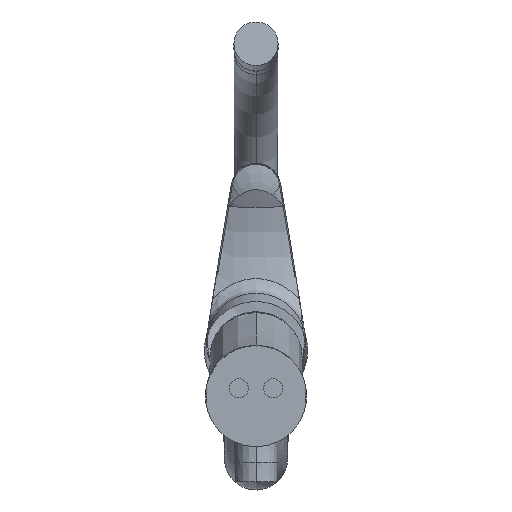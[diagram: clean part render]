
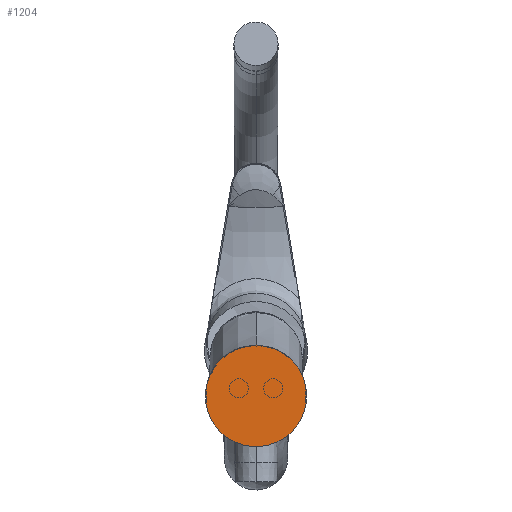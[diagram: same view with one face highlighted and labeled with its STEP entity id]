
A CAD part, front view. The second image highlights one B-rep face of the part: STEP entity #1204.
In plain terms, the highlighted planar face has unit normal (0, -1, 0).
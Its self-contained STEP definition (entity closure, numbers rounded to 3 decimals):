
#166=CARTESIAN_POINT('',(22.498,0.,10.003));
#167=CARTESIAN_POINT('',(22.121,0.,10.608));
#168=CARTESIAN_POINT('',(21.322,0.,11.784));
#169=CARTESIAN_POINT('',(19.983,0.,13.449));
#170=CARTESIAN_POINT('',(19.005,0.,14.481));
#171=CARTESIAN_POINT('',(18.494,0.,14.979));
#196=CARTESIAN_POINT('',(0.,0.,-4.));
#197=DIRECTION('',(0.,-1.,0.));
#198=DIRECTION('',(-0.849,0.,0.528));
#199=AXIS2_PLACEMENT_3D('',#196,#197,#198);
#219=CARTESIAN_POINT('',(22.498,0.,10.003));
#334=CARTESIAN_POINT('',(-22.498,0.,
10.003));
#379=CARTESIAN_POINT('',(-18.494,0.,
14.979));
#381=CARTESIAN_POINT('',(18.494,0.,14.979));
#408=CARTESIAN_POINT('',(0.,0.,-4.));
#409=DIRECTION('',(0.,-1.,0.));
#410=DIRECTION('',(0.698,0.,0.716));
#411=AXIS2_PLACEMENT_3D('',#408,#409,#410);
#741=CARTESIAN_POINT('',(-18.494,0.,
14.979));
#742=CARTESIAN_POINT('',(-19.005,0.,
14.482));
#743=CARTESIAN_POINT('',(-19.983,0.,13.449));
#744=CARTESIAN_POINT('',(-21.322,0.,11.784));
#745=CARTESIAN_POINT('',(-22.121,0.,
10.609));
#746=CARTESIAN_POINT('',(-22.498,0.,
10.003));
#786=VERTEX_POINT('',#219);
#787=VERTEX_POINT('',#334);
#795=VERTEX_POINT('',#379);
#796=VERTEX_POINT('',#381);
#1190=CARTESIAN_POINT('',(0.,0.,0.));
#1191=DIRECTION('',(0.,1.,0.));
#1192=DIRECTION('',(-1.,0.,0.));
#1193=AXIS2_PLACEMENT_3D('',#1190,#1191,#1192);
#1194=PLANE('',#1193);
#1196=ORIENTED_EDGE('',*,*,#1195,.F.);
#1198=ORIENTED_EDGE('',*,*,#1197,.F.);
#1200=ORIENTED_EDGE('',*,*,#1199,.F.);
#1201=ORIENTED_EDGE('',*,*,#1176,.F.);
#1202=EDGE_LOOP('',(#1196,#1198,#1200,#1201));
#1203=FACE_OUTER_BOUND('',#1202,.F.);
#1204=ADVANCED_FACE('',(#1203),#1194,.F.);
#172=B_SPLINE_CURVE_WITH_KNOTS('',3,(#166,#167,#168,#169,#170,#171),
.UNSPECIFIED.,.F.,.F.,(4,1,1,4),(0.,0.333,0.667,1.),
.UNSPECIFIED.);
#200=CIRCLE('',#199,26.5);
#412=CIRCLE('',#411,26.5);
#747=B_SPLINE_CURVE_WITH_KNOTS('',3,(#741,#742,#743,#744,#745,#746),
.UNSPECIFIED.,.F.,.F.,(4,1,1,4),(0.,0.333,0.667,1.),
.UNSPECIFIED.);
#1176=EDGE_CURVE('',#786,#796,#172,.T.);
#1195=EDGE_CURVE('',#787,#786,#200,.T.);
#1197=EDGE_CURVE('',#795,#787,#747,.T.);
#1199=EDGE_CURVE('',#796,#795,#412,.T.);
